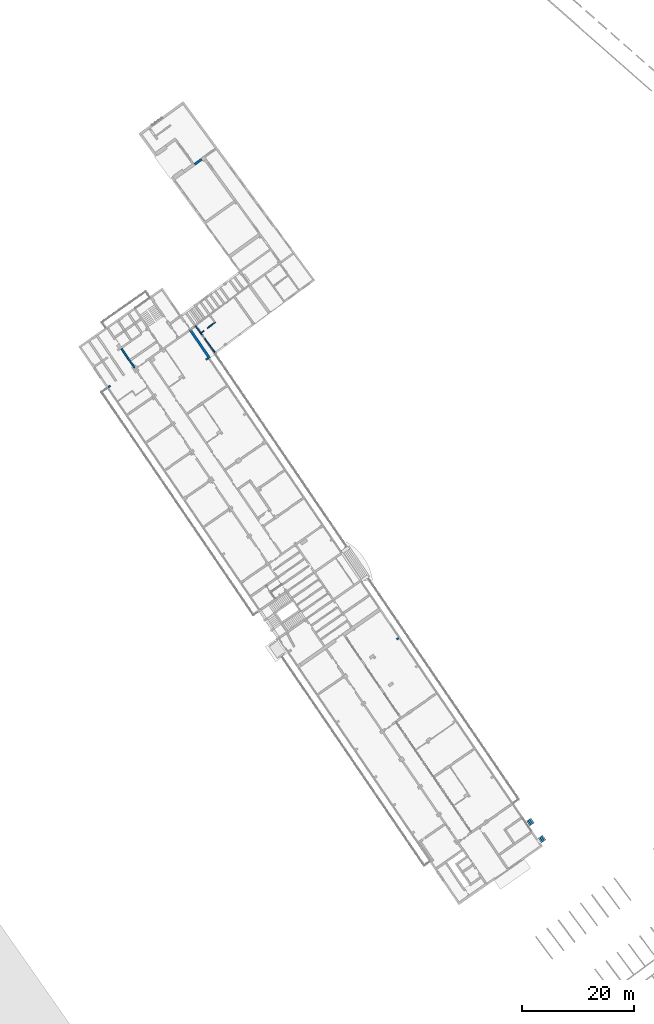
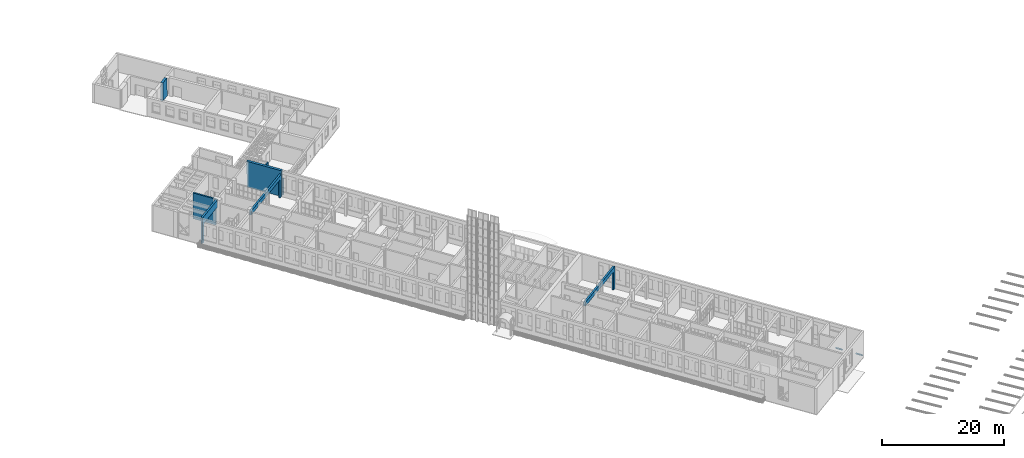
# One storey, part 108 of 157: 8 walls, 2 stair flights, 2 elements without a shape of their own.
"""IFC2X3 building model written with IfcOpenShell, lengths in millimetres."""

from ifc_helpers import new_model, entity, si_unit, converted_unit, derived_unit, direction, frame, origin, place, context, subcontext, project, spatial, polyline, outline, extrude, faceted_brep, material, layer, layer_set, type_object, element, aggregate, save


model = new_model("IFC2X3")

# Units and contexts
model_context = context("Model", 3, precision=0.01, world=origin(), true_north=direction((6.123031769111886e-17, 1.0)))
body_context = subcontext(model_context, "Body", "Model", "MODEL_VIEW")
ifc_project = project(units=[si_unit("LENGTHUNIT", "METRE", prefix="MILLI"), si_unit("AREAUNIT", "SQUARE_METRE"), si_unit("VOLUMEUNIT", "CUBIC_METRE"), converted_unit("PLANEANGLEUNIT", "DEGREE", entity("IfcRatioMeasure", 0.017453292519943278), si_unit("PLANEANGLEUNIT", "RADIAN"), dimensions=[0, 0, 0, 0, 0, 0, 0]), si_unit("MASSUNIT", "GRAM", prefix="KILO"), derived_unit("MASSDENSITYUNIT", [(si_unit("MASSUNIT", "GRAM", prefix="KILO"), 1), (si_unit("LENGTHUNIT", "METRE"), -3)]), derived_unit("MOMENTOFINERTIAUNIT", [(si_unit("LENGTHUNIT", "METRE"), 4)]), si_unit("TIMEUNIT", "SECOND"), si_unit("FREQUENCYUNIT", "HERTZ"), si_unit("THERMODYNAMICTEMPERATUREUNIT", "DEGREE_CELSIUS"), derived_unit("THERMALTRANSMITTANCEUNIT", [(si_unit("MASSUNIT", "GRAM", prefix="KILO"), 1), (si_unit("THERMODYNAMICTEMPERATUREUNIT", "KELVIN"), -1), (si_unit("TIMEUNIT", "SECOND"), -3)]), derived_unit("THERMALCONDUCTANCEUNIT", [(si_unit("MASSUNIT", "GRAM", prefix="KILO"), 1), (si_unit("LENGTHUNIT", "METRE"), 1), (si_unit("THERMODYNAMICTEMPERATUREUNIT", "KELVIN"), -1), (si_unit("TIMEUNIT", "SECOND"), -3)]), derived_unit("VOLUMETRICFLOWRATEUNIT", [(si_unit("LENGTHUNIT", "METRE"), 3), (si_unit("TIMEUNIT", "SECOND"), -1)]), derived_unit("MASSFLOWRATEUNIT", [(si_unit("MASSUNIT", "GRAM", prefix="KILO"), 1), (si_unit("TIMEUNIT", "SECOND"), -1)]), derived_unit("ROTATIONALFREQUENCYUNIT", [(si_unit("TIMEUNIT", "SECOND"), -1)]), si_unit("ELECTRICCURRENTUNIT", "AMPERE"), si_unit("ELECTRICVOLTAGEUNIT", "VOLT"), si_unit("POWERUNIT", "WATT"), converted_unit("FORCEUNIT", "KIP", entity("IfcRatioMeasure", 2.088543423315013e-05), si_unit("FORCEUNIT", "NEWTON"), dimensions=[1, 1, -2, 0, 0, 0, 0]), si_unit("ILLUMINANCEUNIT", "LUX"), si_unit("LUMINOUSFLUXUNIT", "LUMEN"), si_unit("LUMINOUSINTENSITYUNIT", "CANDELA"), derived_unit("USERDEFINED", [(si_unit("MASSUNIT", "GRAM", prefix="KILO"), -1), (si_unit("LENGTHUNIT", "METRE"), -2), (si_unit("TIMEUNIT", "SECOND"), 3), (si_unit("LUMINOUSFLUXUNIT", "LUMEN"), 1)]), derived_unit("USERDEFINED", [(si_unit("MASSUNIT", "GRAM", prefix="KILO"), 1), (si_unit("LENGTHUNIT", "METRE"), 3), (si_unit("TIMEUNIT", "SECOND"), -3), (si_unit("ELECTRICCURRENTUNIT", "AMPERE"), -2)]), derived_unit("USERDEFINED", [(si_unit("LENGTHUNIT", "METRE"), 2), (si_unit("TIMEUNIT", "SECOND"), -2)]), derived_unit("SOUNDPOWERUNIT", [(si_unit("MASSUNIT", "GRAM", prefix="KILO"), 1), (si_unit("LENGTHUNIT", "METRE"), 2), (si_unit("TIMEUNIT", "SECOND"), -3)]), derived_unit("SOUNDPRESSUREUNIT", [(si_unit("MASSUNIT", "GRAM", prefix="KILO"), 1), (si_unit("LENGTHUNIT", "METRE"), -1), (si_unit("TIMEUNIT", "SECOND"), -2)]), derived_unit("LINEARVELOCITYUNIT", [(si_unit("LENGTHUNIT", "METRE"), 1), (si_unit("TIMEUNIT", "SECOND"), -1)]), si_unit("PRESSUREUNIT", "PASCAL"), derived_unit("USERDEFINED", [(si_unit("LENGTHUNIT", "METRE"), -2), (si_unit("MASSUNIT", "GRAM", prefix="KILO"), 1), (si_unit("TIMEUNIT", "SECOND"), -2)]), derived_unit("LINEARFORCEUNIT", [(si_unit("MASSUNIT", "GRAM", prefix="KILO"), 1), (si_unit("LENGTHUNIT", "METRE"), 1), (si_unit("TIMEUNIT", "SECOND"), -2), (si_unit("LENGTHUNIT", "METRE"), -1)]), derived_unit("PLANARFORCEUNIT", [(si_unit("MASSUNIT", "GRAM", prefix="KILO"), 1), (si_unit("LENGTHUNIT", "METRE"), 1), (si_unit("TIMEUNIT", "SECOND"), -2), (si_unit("LENGTHUNIT", "METRE"), -2)]), derived_unit("SPECIFICHEATCAPACITYUNIT", [(si_unit("LENGTHUNIT", "METRE"), 2), (si_unit("TIMEUNIT", "SECOND"), -2), (si_unit("THERMODYNAMICTEMPERATUREUNIT", "KELVIN"), -1)]), derived_unit("VAPORPERMEABILITYUNIT", [(si_unit("TIMEUNIT", "SECOND"), 1), (si_unit("LENGTHUNIT", "METRE"), -1)]), derived_unit("DYNAMICVISCOSITYUNIT", [(si_unit("MASSUNIT", "GRAM", prefix="KILO"), 1), (si_unit("LENGTHUNIT", "METRE"), -1), (si_unit("TIMEUNIT", "SECOND"), -1)]), derived_unit("THERMALEXPANSIONCOEFFICIENTUNIT", [(si_unit("THERMODYNAMICTEMPERATUREUNIT", "KELVIN"), -1)])], contexts=[model_context])

# Site, building, storey
site_placement = place(None, frame((0.0, 0.0, 0.0), z_axis=(0.0, 0.0, 1.0), x_axis=(0.8191520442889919, 0.5735764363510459, 0.0)))
site = spatial("IfcSite", under=ifc_project, at=site_placement, Name="Default", CompositionType="ELEMENT")
building_placement = place(site_placement, origin())
building = spatial("IfcBuilding", under=site, at=building_placement, CompositionType="ELEMENT")
storey_placement = place(building_placement, origin())
storey = spatial("IfcBuildingStorey", under=building, at=storey_placement, Name="1.EG +0.00", CompositionType="ELEMENT", Elevation=-4.331468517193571e-12)

# Walls
ifc_material_1 = material(Name="Analytical Wall Surface_CJC")
ifc_layer_1 = layer(ifc_material_1, 450.00000000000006)
ifc_layer_set_1 = layer_set([ifc_layer_1], Name="Basic Wall:Wand_Aussen_45")
wall_type_1 = type_object("IfcWallType", Name="Basic Wall:Wand_Aussen_45", PredefinedType="STANDARD", material=ifc_layer_set_1)
wall_1_placement = place(storey_placement, frame((-204254.62728973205, 164177.2841025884, 0.0), z_axis=(0.0, 0.0, 1.0), x_axis=(-0.012729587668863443, -0.999918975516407, 0.0)))
element("IfcWall", 1, at=wall_1_placement, inside=storey, type_object=wall_type_1, Name="Basic Wall:Wand_Aussen_45", ObjectType="Basic Wall:Wand_Aussen_45", context=body_context, shape_type="Brep", body=[
    faceted_brep([(97.3349871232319, -225.0, 0.0), (6009.276243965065, -225.0, 0.0), (6359.304604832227, -225.0, 0.0), (6359.304604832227, -225.0, 4500.0), (6359.304604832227, -225.0, 5150.0), (358.8184185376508, -225.0, 5150.0), (58.794109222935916, -225.0, 5150.0), (19.505650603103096, -225.0, 5150.0), (19.505650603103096, -225.0, 2650.0), (97.3349871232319, -225.0, 2650.0), (97.3349871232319, 225.0, 0.0), (97.3349871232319, 225.0, 2650.0), (0.0, 225.0, 2650.0), (0.0, 225.0, 5150.0), (6353.5758262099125, 225.0, 5150.0), (6353.5758262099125, 225.0, 0.0)], [[[0, 1, 2, 3, 4, 5, 6, 7, 8, 9]], [[10, 11, 12, 13, 14, 15]], [[2, 1, 0, 10, 15]], [[7, 6, 5, 4, 14, 13]], [[4, 3, 2, 15, 14]], [[0, 9, 11, 10]], [[8, 12, 11, 9]], [[8, 7, 13, 12]]]),
])
ifc_layer_2 = layer(ifc_material_1, 300.0)
ifc_layer_set_2 = layer_set([ifc_layer_2], Name="Basic Wall:Wand_Innen_30")
wall_type_2 = type_object("IfcWallType", Name="Basic Wall:Wand_Innen_30", PredefinedType="STANDARD", material=ifc_layer_set_2)
wall_2_placement = place(storey_placement, frame((-216306.10094288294, 164119.44947620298, 0.0), z_axis=(0.0, 0.0, 1.0), x_axis=(0.012729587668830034, 0.9999189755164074, 0.0)))
element("IfcWall", 2, at=wall_2_placement, inside=storey, type_object=wall_type_2, Name="Basic Wall:Wand_Innen_30", ObjectType="Basic Wall:Wand_Innen_30", context=body_context, shape_type="Brep", body=[
    faceted_brep([(3.8191857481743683, -150.0, 0.0), (421.71109218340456, -150.0, 0.0), (4154.155464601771, -150.0, 0.0), (4154.155464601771, -150.0, 5150.0), (421.71109218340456, -150.0, 5150.0), (3.8191857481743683, -150.0, 5150.0), (3.8191857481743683, -150.0, 3700.0), (0.0, 150.0, 0.0), (0.0, 150.0, 3700.0), (50.004051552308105, 150.0, 3700.0), (50.004051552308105, 150.0, 4500.0), (50.004051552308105, 150.0, 5150.0), (421.7110921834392, 150.0, 5150.0), (4150.336278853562, 150.0, 5150.0), (4150.336278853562, 150.0, 0.0), (421.71109218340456, 150.0, 0.0), (51.88528470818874, 2.227677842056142, 5150.0), (1.8852845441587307, 1.9094381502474, 5150.0), (1.8852845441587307, 1.9094381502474, 3700.0), (51.88528470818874, 2.227677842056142, 3700.0), (1.8852845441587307, 1.9094381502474, 4500.0), (51.88528470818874, 2.227677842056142, 4500.0)], [[[0, 1, 2, 3, 4, 5, 6]], [[7, 8, 9, 10, 11, 12, 13, 14, 15]], [[2, 1, 0, 7, 15, 14]], [[5, 4, 3, 13, 12, 11, 16, 17]], [[18, 19, 9, 8]], [[0, 6, 18, 8, 7]], [[6, 5, 17, 20, 18]], [[3, 2, 14, 13]], [[17, 16, 21, 19, 18, 20]], [[16, 11, 10, 9, 19, 21]]]),
])
ifc_layer_3 = layer(ifc_material_1, 350.0)
ifc_layer_set_3 = layer_set([ifc_layer_3], Name="Basic Wall:Wand_Innen_35")
wall_type_3 = type_object("IfcWallType", Name="Basic Wall:Wand_Innen_35", PredefinedType="STANDARD", material=ifc_layer_set_3)
wall_3_placement = place(storey_placement, frame((-205326.77830924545, 97396.35891435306, 0.0), z_axis=(0.0, 0.0, 1.0), x_axis=(-1.0, 0.0, 0.0)))
element("IfcWall", 3, at=wall_3_placement, inside=storey, type_object=wall_type_3, Name="Basic Wall:Wand_Innen_35", ObjectType="Basic Wall:Wand_Innen_35", context=body_context, shape_type="Brep", body=[
    faceted_brep([(0.0, -175.0, 0.0), (454.3911696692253, -175.0, 0.0), (454.3911696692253, -175.0, 3700.0), (5374.877355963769, -175.0, 3700.0), (6274.877355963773, -175.0, 3700.0), (7576.419741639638, -175.0, 3700.0), (7876.444050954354, -175.0, 3700.0), (11375.37583635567, -175.0, 3700.0), (11375.37583635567, -175.0, 4500.0), (7876.444050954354, -175.0, 4500.0), (7576.419741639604, -175.0, 4500.0), (6274.877355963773, -175.0, 4500.0), (5374.877355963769, -175.0, 4500.0), (0.0, -175.0, 4500.0), (4.4472896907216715, 175.0, 0.0), (4.4472896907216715, 175.0, 4500.0), (5374.877355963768, 175.0, 4500.0), (6274.877355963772, 175.0, 4500.0), (7580.875458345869, 175.0, 4500.0), (7880.89976766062, 175.0, 4500.0), (11375.37583635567, 175.0, 4500.0), (11375.37583635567, 175.0, 3700.0), (7880.89976766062, 175.0, 3700.0), (7580.875458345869, 175.0, 3700.0), (6274.877355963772, 175.0, 3700.0), (5374.877355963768, 175.0, 3700.0), (454.3911696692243, 175.0, 3700.0), (454.3911696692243, 175.0, 0.0)], [[[0, 1, 2, 3, 4, 5, 6, 7, 8, 9, 10, 11, 12, 13]], [[14, 15, 16, 17, 18, 19, 20, 21, 22, 23, 24, 25, 26, 27]], [[8, 7, 21, 20]], [[1, 0, 14, 27]], [[7, 6, 5, 4, 3, 2, 26, 25, 24, 23, 22, 21]], [[13, 12, 11, 10, 9, 8, 20, 19, 18, 17, 16, 15]], [[2, 1, 27, 26]], [[0, 13, 15, 14]]]),
])
wall_4_placement = place(storey_placement, frame((-204556.10466799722, 157996.35891435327, 0.0), z_axis=(0.0, 0.0, 1.0), x_axis=(-1.0, 0.0, 0.0)))
element("IfcWall", 4, at=wall_4_placement, inside=storey, type_object=wall_type_3, Name="Basic Wall:Wand_Innen_35", ObjectType="Basic Wall:Wand_Innen_35", context=body_context, shape_type="Brep", body=[
    faceted_brep([(0.0, -175.0, 0.0), (457.2055748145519, -175.0, 0.0), (457.2055748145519, -175.0, 3700.0), (5377.691761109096, -175.0, 3700.0), (6277.6917611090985, -175.0, 3700.0), (8675.706995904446, -175.0, 3700.0), (8975.731305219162, -175.0, 3700.0), (11378.17794740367, -175.0, 3700.0), (11675.706995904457, -175.0, 3700.0), (11675.706995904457, -175.0, 4500.0), (11378.17794740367, -175.0, 4500.0), (8975.731305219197, -175.0, 4500.0), (8675.706995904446, -175.0, 4500.0), (6277.6917611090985, -175.0, 4500.0), (5377.691761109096, -175.0, 4500.0), (0.0, -175.0, 4500.0), (4.45571670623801, 175.0, 0.0), (4.45571670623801, 175.0, 4500.0), (5377.691761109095, 175.0, 4500.0), (6277.691761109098, 175.0, 4500.0), (8680.162712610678, 175.0, 4500.0), (8980.187021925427, 175.0, 4500.0), (11378.17794740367, 175.0, 4500.0), (11680.16271261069, 175.0, 4500.0), (11680.16271261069, 175.0, 3700.0), (11378.17794740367, 175.0, 3700.0), (8980.187021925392, 175.0, 3700.0), (8680.162712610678, 175.0, 3700.0), (6277.691761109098, 175.0, 3700.0), (5377.691761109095, 175.0, 3700.0), (457.20557481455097, 175.0, 3700.0), (457.20557481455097, 175.0, 0.0)], [[[0, 1, 2, 3, 4, 5, 6, 7, 8, 9, 10, 11, 12, 13, 14, 15]], [[16, 17, 18, 19, 20, 21, 22, 23, 24, 25, 26, 27, 28, 29, 30, 31]], [[1, 0, 16, 31]], [[8, 7, 6, 5, 4, 3, 2, 30, 29, 28, 27, 26, 25, 24]], [[15, 14, 13, 12, 11, 10, 9, 23, 22, 21, 20, 19, 18, 17]], [[2, 1, 31, 30]], [[9, 8, 24, 23]], [[0, 15, 17, 16]]]),
])
wall_5_placement = place(storey_placement, frame((-222174.51259913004, 163996.35891435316, 0.0)))
element("IfcWall", 5, at=wall_5_placement, inside=storey, type_object=wall_type_3, Name="Basic Wall:Wand_Innen_35", ObjectType="Basic Wall:Wand_Innen_35", context=body_context, shape_type="Brep", body=[
    faceted_brep([(5866.844637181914, -175.0, 5150.0), (5866.526371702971, -175.0, 5150.0), (5461.807304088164, -175.0, 5150.0), (0.0, -175.0, 5150.0), (0.0, -175.0, 0.0), (491.1781568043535, -175.0, 0.0), (491.1781568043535, -175.0, 3700.0), (5461.807304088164, -175.0, 3700.0), (5714.6046241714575, -175.0, 3700.0), (5714.604624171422, -175.0, 4500.0), (5866.526371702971, -175.0, 4500.0), (5866.844637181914, -175.0, 4500.0), (5866.844637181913, 175.0, 5150.0), (5866.844637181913, 175.0, 4500.0), (5719.060340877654, 175.0, 4500.0), (5719.060340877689, 175.0, 3700.0), (5466.263020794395, 175.0, 3700.0), (491.17815680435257, 175.0, 3700.0), (491.17815680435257, 175.0, 0.0), (0.0, 175.0, 0.0), (0.0, 175.0, 5150.0), (1643.4870462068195, 175.0, 5150.0), (1943.511355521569, 175.0, 5150.0), (3393.630876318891, 175.0, 5150.0), (3693.6551856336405, 175.0, 5150.0), (5466.263020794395, 175.0, 5150.0), (5719.060340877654, 175.0, 5150.0), (5718.4238099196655, 125.0, 3700.0), (5718.423809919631, 125.0, 4500.0)], [[[0, 1, 2, 3, 4, 5, 6, 7, 8, 9, 10, 11]], [[12, 13, 14, 15, 16, 17, 18, 19, 20, 21, 22, 23, 24, 25, 26]], [[4, 3, 20, 19]], [[5, 4, 19, 18]], [[6, 5, 18, 17]], [[8, 7, 6, 17, 16, 15, 27]], [[3, 2, 1, 0, 12, 26, 25, 24, 23, 22, 21, 20]], [[0, 11, 13, 12]], [[13, 11, 10, 9, 28, 14]], [[9, 8, 27, 15, 14, 28]]]),
])
ifc_layer_4 = layer(ifc_material_1, 200.0)
ifc_layer_set_4 = layer_set([ifc_layer_4], Name="Basic Wall:Wand_Innen_20")
wall_type_4 = type_object("IfcWallType", Name="Basic Wall:Wand_Innen_20", PredefinedType="STANDARD", material=ifc_layer_set_4)
wall_6_placement = place(storey_placement, frame((-202939.3184723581, 158160.73459752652, -750.0), z_axis=(0.0, 0.0, 1.0), x_axis=(-0.026281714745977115, 0.999654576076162, 0.0)))
element("IfcWall", 6, at=wall_6_placement, inside=storey, type_object=wall_type_4, Name="Basic Wall:Wand_Innen_20", ObjectType="Basic Wall:Wand_Innen_20", context=body_context, shape_type="Brep", body=[
    faceted_brep([(0.9909949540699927, -100.0, 3250.0), (0.9909949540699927, -100.0, 0.0), (3069.695811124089, -100.0, 0.0), (3069.695811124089, -100.0, 2000.0), (3869.6958111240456, -100.0, 2000.0), (3869.6958111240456, -100.0, 0.0), (4169.687805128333, -100.0, 0.0), (4369.689657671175, -100.0, 0.0), (5869.703551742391, -100.0, 0.0), (5869.703551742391, -100.0, 3250.0), (4369.689657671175, -100.0, 3250.0), (4169.687805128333, -100.0, 3250.0), (0.0, 100.0, 0.0), (0.0, 100.0, 800.0), (0.0, 100.0, 3250.0), (5868.8427262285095, 100.0, 3250.0), (5868.8427262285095, 100.0, 0.0), (3869.69581112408, 100.0, 0.0), (3869.69581112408, 100.0, 2000.0), (3069.695811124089, 100.0, 2000.0), (3069.695811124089, 100.0, 0.0)], [[[0, 1, 2, 3, 4, 5, 6, 7, 8, 9, 10, 11]], [[12, 13, 14, 15, 16, 17, 18, 19, 20]], [[9, 8, 16, 15]], [[0, 14, 13, 12, 1]], [[2, 1, 12, 20]], [[3, 2, 20, 19]], [[4, 3, 19, 18]], [[5, 4, 18, 17]], [[8, 7, 6, 5, 17, 16]], [[0, 11, 10, 9, 15, 14]]]),
])
wall_7_placement = place(storey_placement, frame((-202951.9979674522, 162431.56348399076, -750.0), z_axis=(0.0, 0.0, 1.0), x_axis=(0.9995321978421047, 0.030584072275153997, 0.0)))
element("IfcWall", 7, at=wall_7_placement, inside=storey, type_object=wall_type_4, Name="Basic Wall:Wand_Innen_20", ObjectType="Basic Wall:Wand_Innen_20", context=body_context, shape_type="Brep", body=[
    faceted_brep([(0.0, -100.0, 0.0), (600.429486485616, -100.0, 0.0), (600.429486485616, -100.0, 2000.0), (1400.4294864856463, -100.0, 2000.0), (1400.4294864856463, -100.0, 0.0), (3200.029640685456, -100.0, 0.0), (3200.029640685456, -100.0, 3250.0), (0.0, -100.0, 3250.0), (0.8608255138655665, 100.0, 0.0), (0.8608255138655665, 100.0, 3250.0), (3000.8886136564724, 100.0, 3250.0), (3200.8904661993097, 100.0, 3250.0), (3200.8904661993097, 100.0, 0.0), (3000.8886136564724, 100.0, 0.0), (1400.4294864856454, 100.0, 0.0), (1400.4294864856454, 100.0, 2000.0), (600.4294864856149, 100.0, 2000.0), (600.4294864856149, 100.0, 0.0)], [[[0, 1, 2, 3, 4, 5, 6, 7]], [[8, 9, 10, 11, 12, 13, 14, 15, 16, 17]], [[0, 7, 9, 8]], [[6, 5, 12, 11]], [[7, 6, 11, 10, 9]], [[1, 0, 8, 17]], [[2, 1, 17, 16]], [[3, 2, 16, 15]], [[4, 3, 15, 14]], [[5, 4, 14, 13, 12]]]),
])
ifc_layer_5 = layer(ifc_material_1, 425.0)
ifc_layer_set_5 = layer_set([ifc_layer_5], Name="Basic Wall:Wand_Innen_42.5")
wall_type_5 = type_object("IfcWallType", Name="Basic Wall:Wand_Innen_42.5", PredefinedType="STANDARD", material=ifc_layer_set_5)
wall_8_placement = place(storey_placement, frame((-184702.45692604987, 187831.70767347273, -1150.0), z_axis=(0.0, 0.0, 1.0), x_axis=(-0.9999333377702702, -0.011546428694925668, 0.0)))
element("IfcWall", 8, at=wall_8_placement, inside=storey, type_object=wall_type_5, Name="Basic Wall:Wand_Innen_42.5", ObjectType="Basic Wall:Wand_Innen_42.5", context=body_context, shape_type="Brep", body=[
    faceted_brep([(0.0, -212.49999999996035, 0.0), (1905.1870940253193, -212.49999999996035, 0.0), (1905.1870940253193, -212.49999999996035, 3650.0), (351.49328593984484, -212.4999999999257, 3650.0), (351.49328593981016, -212.4999999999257, 1150.0), (0.0, -212.49999999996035, 1150.0), (0.0, 212.499999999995, 0.0), (0.0, 212.499999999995, 1150.0), (348.52380033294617, 212.50000000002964, 1150.0), (348.52380033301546, 212.50000000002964, 3650.0), (1901.0627480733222, 212.50000000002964, 3650.0), (1901.0627480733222, 212.50000000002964, 0.0)], [[[0, 1, 2, 3, 4, 5]], [[6, 7, 8, 9, 10, 11]], [[1, 0, 6, 11]], [[3, 2, 10, 9]], [[2, 1, 11, 10]], [[0, 5, 7, 6]], [[4, 8, 7, 5]], [[4, 3, 9, 8]]]),
])

# Stair, stair flight
stair_1_placement = place(storey_placement, origin())
stair_1 = element("IfcStair", 9, at=stair_1_placement, inside=storey, Name="Assembled Stair:Stair", ObjectType="Assembled Stair:Commercial-Ext_Steel_Fire_Escape", ShapeType="STRAIGHT_RUN_STAIR")
ifc_material_2 = material(Name="Concrete, Cast-in-Place gray")
stair_flight_type = type_object("IfcStairFlightType", Name="Non-Monolithic Run:Concrete_Steps_w-38mm_Tread-38mm_Nosing", PredefinedType="STRAIGHT")
stair_flight_1_placement = place(stair_1_placement, origin())
stair_flight_1 = element("IfcStairFlight", 10, at=stair_flight_1_placement, type_object=stair_flight_type, material=ifc_material_2, Name="Assembled Stair:Stair:629207 Run 1", ObjectType="Non-Monolithic Run:Concrete_Steps_w-38mm_Tread-38mm_Nosing", NumberOfRiser=3, NumberOfTreads=3, RiserHeight=0.9295713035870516, TreadLength=1.0498687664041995, context=body_context, shape_type="SweptSolid", body=[
    extrude(outline(polyline([(-23.249999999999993, -127.80000000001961), (-4.199999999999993, -127.80000000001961), (21.200000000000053, -102.4000000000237), (14.75000000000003, -102.39999999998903), (14.75000000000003, 230.20000000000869), (-23.249999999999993, 230.20000000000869), (-23.249999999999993, -127.80000000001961)])), frame((-204615.1266615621, 52712.110468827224, -589.9166666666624), z_axis=(0.010253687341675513, 0.9999474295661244, 0.0), x_axis=(0.0, 0.0, -1.0)), (0.0, 0.0, 1.0), 1000.0000000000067),
    extrude(outline(polyline([(-23.249999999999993, -127.79999999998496), (-4.199999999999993, -127.79999999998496), (21.200000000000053, -102.39999999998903), (14.75000000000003, -102.39999999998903), (14.75000000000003, 230.20000000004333), (-23.24999999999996, 230.20000000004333), (-23.249999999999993, -127.79999999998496)])), frame((-204935.10983902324, 52715.39164877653, -306.583333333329), z_axis=(0.010253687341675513, 0.9999474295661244, 0.0), x_axis=(0.0, 0.0, -1.0)), (0.0, 0.0, 1.0), 1000.0000000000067),
    extrude(outline(polyline([(-23.25000000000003, -115.1333333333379), (-4.200000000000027, -115.1333333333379), (21.200000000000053, -89.73333333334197), (14.749999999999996, -89.73333333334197), (14.749999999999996, 204.8666666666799), (-23.249999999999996, 204.8666666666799), (-23.25000000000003, -115.1333333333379)])), frame((-205242.4270157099, 52718.54294868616, -23.249999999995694), z_axis=(0.010253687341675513, 0.9999474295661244, 0.0), x_axis=(0.0, 0.0, -1.0)), (0.0, 0.0, 1.0), 1000.0000000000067),
])
aggregate(stair_1, [stair_flight_1])

stair_2_placement = place(storey_placement, origin())
stair_2 = element("IfcStair", 11, at=stair_2_placement, inside=storey, Name="Assembled Stair:Stair", ObjectType="Assembled Stair:Commercial-Ext_Steel_Fire_Escape", ShapeType="STRAIGHT_RUN_STAIR")
stair_flight_2_placement = place(stair_2_placement, origin())
stair_flight_2 = element("IfcStairFlight", 12, at=stair_flight_2_placement, type_object=stair_flight_type, material=ifc_material_2, Name="Assembled Stair:Stair:629355 Run 1", ObjectType="Non-Monolithic Run:Concrete_Steps_w-38mm_Tread-38mm_Nosing", NumberOfRiser=3, NumberOfTreads=3, RiserHeight=0.9295713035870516, TreadLength=1.0498687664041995, context=body_context, shape_type="SweptSolid", body=[
    extrude(outline(polyline([(-23.249999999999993, -127.79999999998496), (-4.199999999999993, -127.79999999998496), (21.200000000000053, -102.39999999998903), (14.75000000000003, -102.39999999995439), (14.75000000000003, 230.20000000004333), (-23.249999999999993, 230.20000000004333), (-23.249999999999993, -127.79999999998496)])), frame((-204575.12666156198, 56392.49141610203, -589.9166666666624), z_axis=(0.010253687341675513, 0.9999474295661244, 0.0), x_axis=(0.0, 0.0, -1.0)), (0.0, 0.0, 1.0), 1000.0000000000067),
    extrude(outline(polyline([(-23.249999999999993, -127.80000000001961), (-4.199999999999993, -127.80000000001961), (21.200000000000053, -102.4000000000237), (14.75000000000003, -102.4000000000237), (14.75000000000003, 230.20000000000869), (-23.24999999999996, 230.20000000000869), (-23.249999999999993, -127.80000000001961)])), frame((-204895.1098390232, 56395.772596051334, -306.583333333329), z_axis=(0.010253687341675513, 0.9999474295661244, 0.0), x_axis=(0.0, 0.0, -1.0)), (0.0, 0.0, 1.0), 1000.0000000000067),
    extrude(outline(polyline([(-23.25000000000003, -115.13333333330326), (-4.200000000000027, -115.13333333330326), (21.200000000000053, -89.73333333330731), (14.749999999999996, -89.73333333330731), (14.749999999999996, 204.86666666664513), (-23.249999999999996, 204.86666666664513), (-23.25000000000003, -115.13333333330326)])), frame((-205202.42701570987, 56398.923895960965, -23.249999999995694), z_axis=(0.010253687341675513, 0.9999474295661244, 0.0), x_axis=(0.0, 0.0, -1.0)), (0.0, 0.0, 1.0), 1000.0000000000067),
])
aggregate(stair_2, [stair_flight_2])

save(model, "model.ifc")
